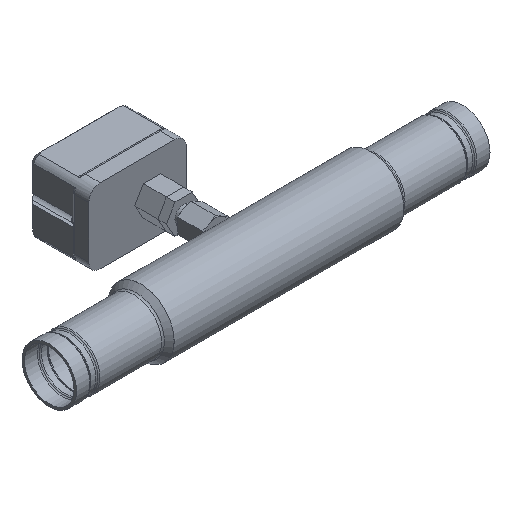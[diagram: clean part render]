
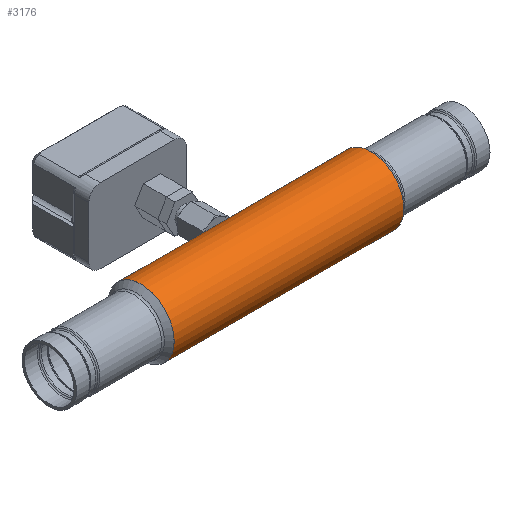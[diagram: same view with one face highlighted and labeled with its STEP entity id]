
A CAD part, isometric view. The second image highlights one B-rep face of the part: STEP entity #3176.
In plain terms, the highlighted cylindrical face has radius 36.513 mm (diameter 73.025 mm), a full revolution.
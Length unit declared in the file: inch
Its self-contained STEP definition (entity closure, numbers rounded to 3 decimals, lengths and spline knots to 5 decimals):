
#92=FACE_BOUND('',#468,.T.);
#179=CYLINDRICAL_SURFACE('',#3483,1.4375);
#288=FACE_OUTER_BOUND('',#467,.T.);
#467=EDGE_LOOP('',(#2423,#2424,#2425,#2426,#2427,#2428));
#468=EDGE_LOOP('',(#2429,#2430));
#675=CIRCLE('',#3478,1.4375);
#676=CIRCLE('',#3479,1.4375);
#677=CIRCLE('',#3481,1.4375);
#678=CIRCLE('',#3482,1.4375);
#802=B_SPLINE_CURVE_WITH_KNOTS('',3,(#15099,#15100,#15101,#15102,#15103,
#15104,#15105,#15106,#15107,#15108,#15109,#15110,#15111,#15112,#15113,#15114,
#15115,#15116,#15117,#15118,#15119,#15120,#15121,#15122,#15123,#15124),
 .UNSPECIFIED.,.F.,.F.,(4,2,2,2,2,2,2,2,2,2,2,2,4),(0.,0.2092,
0.41841,0.62772,0.83704,1.04635,
1.25567,1.46487,1.67408,1.88328,2.09248,
2.3018,2.51112),.UNSPECIFIED.);
#803=B_SPLINE_CURVE_WITH_KNOTS('',3,(#15125,#15126,#15127,#15128,#15129,
#15130,#15131,#15132,#15133,#15134),.UNSPECIFIED.,.F.,.F.,(4,2,2,2,4),(2.51112,
2.72043,2.92975,3.13895,3.34815),
 .UNSPECIFIED.);
#869=LINE('',#15371,#1041);
#1041=VECTOR('',#4086,1.4375);
#1259=VERTEX_POINT('',#15097);
#1260=VERTEX_POINT('',#15098);
#1325=VERTEX_POINT('',#15361);
#1326=VERTEX_POINT('',#15362);
#1327=VERTEX_POINT('',#15366);
#1328=VERTEX_POINT('',#15367);
#1620=EDGE_CURVE('',#1259,#1260,#802,.T.);
#1621=EDGE_CURVE('',#1260,#1259,#803,.T.);
#1718=EDGE_CURVE('',#1325,#1326,#675,.T.);
#1719=EDGE_CURVE('',#1326,#1325,#676,.T.);
#1720=EDGE_CURVE('',#1327,#1328,#677,.T.);
#1721=EDGE_CURVE('',#1328,#1327,#678,.T.);
#1722=EDGE_CURVE('',#1328,#1326,#869,.T.);
#2423=ORIENTED_EDGE('',*,*,#1720,.F.);
#2424=ORIENTED_EDGE('',*,*,#1721,.F.);
#2425=ORIENTED_EDGE('',*,*,#1722,.T.);
#2426=ORIENTED_EDGE('',*,*,#1718,.F.);
#2427=ORIENTED_EDGE('',*,*,#1719,.F.);
#2428=ORIENTED_EDGE('',*,*,#1722,.F.);
#2429=ORIENTED_EDGE('',*,*,#1620,.T.);
#2430=ORIENTED_EDGE('',*,*,#1621,.T.);
#3176=ADVANCED_FACE('',(#288,#92),#179,.T.);
#3478=AXIS2_PLACEMENT_3D('',#15363,#4074,#4075);
#3479=AXIS2_PLACEMENT_3D('',#15364,#4076,#4077);
#3481=AXIS2_PLACEMENT_3D('',#15368,#4080,#4081);
#3482=AXIS2_PLACEMENT_3D('',#15369,#4082,#4083);
#3483=AXIS2_PLACEMENT_3D('',#15370,#4084,#4085);
#4074=DIRECTION('center_axis',(-1.,0.,0.));
#4075=DIRECTION('ref_axis',(0.,1.,0.));
#4076=DIRECTION('center_axis',(-1.,0.,0.));
#4077=DIRECTION('ref_axis',(0.,1.,0.));
#4080=DIRECTION('center_axis',(1.,0.,0.));
#4081=DIRECTION('ref_axis',(0.,1.,0.));
#4082=DIRECTION('center_axis',(1.,0.,0.));
#4083=DIRECTION('ref_axis',(0.,1.,0.));
#4084=DIRECTION('center_axis',(1.,0.,0.));
#4085=DIRECTION('ref_axis',(0.,1.,0.));
#4086=DIRECTION('',(-1.,0.,0.));
#15097=CARTESIAN_POINT('',(9.83012,3.54023,2.21809));
#15098=CARTESIAN_POINT('',(10.04873,3.55687,2.));
#15099=CARTESIAN_POINT('Ctrl Pts',(9.83012,3.54023,2.21809));
#15100=CARTESIAN_POINT('Ctrl Pts',(9.80267,3.54023,2.21809));
#15101=CARTESIAN_POINT('Ctrl Pts',(9.7734,3.5411,2.21261));
#15102=CARTESIAN_POINT('Ctrl Pts',(9.71959,3.54425,2.19039));
#15103=CARTESIAN_POINT('Ctrl Pts',(9.69505,3.54647,2.17364));
#15104=CARTESIAN_POINT('Ctrl Pts',(9.65625,3.55064,2.13499));
#15105=CARTESIAN_POINT('Ctrl Pts',(9.6394,3.55287,2.11049));
#15106=CARTESIAN_POINT('Ctrl Pts',(9.61703,3.556,2.05673));
#15107=CARTESIAN_POINT('Ctrl Pts',(9.61151,3.55687,2.02747));
#15108=CARTESIAN_POINT('Ctrl Pts',(9.61151,3.55687,1.97253));
#15109=CARTESIAN_POINT('Ctrl Pts',(9.61703,3.556,1.94327));
#15110=CARTESIAN_POINT('Ctrl Pts',(9.6394,3.55287,1.88951));
#15111=CARTESIAN_POINT('Ctrl Pts',(9.65625,3.55064,1.86501));
#15112=CARTESIAN_POINT('Ctrl Pts',(9.69505,3.54647,1.82636));
#15113=CARTESIAN_POINT('Ctrl Pts',(9.71959,3.54425,1.80961));
#15114=CARTESIAN_POINT('Ctrl Pts',(9.7734,3.5411,1.78739));
#15115=CARTESIAN_POINT('Ctrl Pts',(9.80267,3.54023,1.78191));
#15116=CARTESIAN_POINT('Ctrl Pts',(9.85757,3.54023,1.78191));
#15117=CARTESIAN_POINT('Ctrl Pts',(9.88684,3.5411,1.78739));
#15118=CARTESIAN_POINT('Ctrl Pts',(9.94065,3.54425,1.80961));
#15119=CARTESIAN_POINT('Ctrl Pts',(9.96519,3.54647,1.82636));
#15120=CARTESIAN_POINT('Ctrl Pts',(10.00399,3.55064,1.86501));
#15121=CARTESIAN_POINT('Ctrl Pts',(10.02084,3.55287,1.88951));
#15122=CARTESIAN_POINT('Ctrl Pts',(10.04321,3.556,1.94327));
#15123=CARTESIAN_POINT('Ctrl Pts',(10.04873,3.55687,1.97253));
#15124=CARTESIAN_POINT('Ctrl Pts',(10.04873,3.55687,2.));
#15125=CARTESIAN_POINT('Ctrl Pts',(10.04873,3.55687,2.));
#15126=CARTESIAN_POINT('Ctrl Pts',(10.04873,3.55687,2.02747));
#15127=CARTESIAN_POINT('Ctrl Pts',(10.04321,3.556,2.05673));
#15128=CARTESIAN_POINT('Ctrl Pts',(10.02084,3.55287,2.11049));
#15129=CARTESIAN_POINT('Ctrl Pts',(10.00399,3.55064,2.13499));
#15130=CARTESIAN_POINT('Ctrl Pts',(9.96519,3.54647,2.17364));
#15131=CARTESIAN_POINT('Ctrl Pts',(9.94065,3.54425,2.19039));
#15132=CARTESIAN_POINT('Ctrl Pts',(9.88684,3.5411,2.21261));
#15133=CARTESIAN_POINT('Ctrl Pts',(9.85757,3.54023,2.21809));
#15134=CARTESIAN_POINT('Ctrl Pts',(9.83012,3.54023,2.21809));
#15361=CARTESIAN_POINT('',(4.83012,3.55687,2.));
#15362=CARTESIAN_POINT('',(4.83012,0.68187,2.));
#15363=CARTESIAN_POINT('Origin',(4.83012,2.11937,2.));
#15364=CARTESIAN_POINT('Origin',(4.83012,2.11937,2.));
#15366=CARTESIAN_POINT('',(14.83012,3.55687,2.));
#15367=CARTESIAN_POINT('',(14.83012,0.68187,2.));
#15368=CARTESIAN_POINT('Origin',(14.83012,2.11937,2.));
#15369=CARTESIAN_POINT('Origin',(14.83012,2.11937,2.));
#15370=CARTESIAN_POINT('Origin',(9.83012,2.11937,2.));
#15371=CARTESIAN_POINT('',(9.83012,0.68187,2.));
